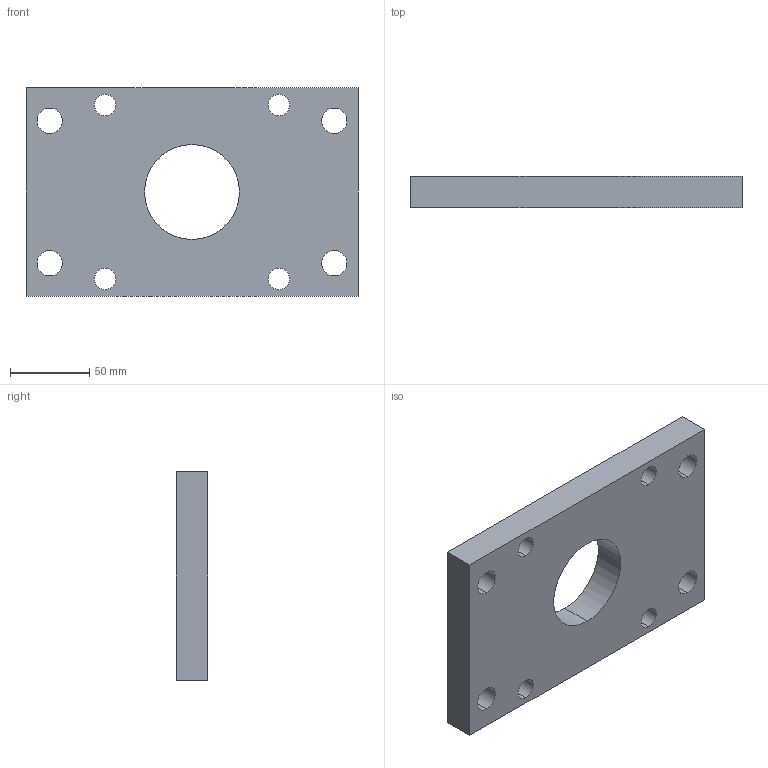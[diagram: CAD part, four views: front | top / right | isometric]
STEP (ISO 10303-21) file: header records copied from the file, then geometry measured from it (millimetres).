
FILE_DESCRIPTION (( 'STEP AP214' ), '1' );
FILE_NAME ('FLICR-125.STEP', '2012-11-07T13:16:07', ( '' ), ( '' ), 'SwSTEP 2.0', 'SolidWorks 2009', '' );
FILE_SCHEMA (( 'AUTOMOTIVE_DESIGN' ));
Length unit declared in the file: millimetre
Products named in the file (1): FLICR-125
Bounding box: 210 x 20 x 132 mm (x, y, z)
Volume: 464158.5 mm3; surface area: 72630.7 mm2
Topology: 1 solids, 1 shells, 36 faces, 90 edges, 60 vertices
Faces by surface type: cylinder 26, plane 10
Entity records: 1176 total; most frequent: DIRECTION 216, CARTESIAN_POINT 187, ORIENTED_EDGE 180, EDGE_CURVE 90, AXIS2_PLACEMENT_3D 89, VERTEX_POINT 60, EDGE_LOOP 58, CIRCLE 52
